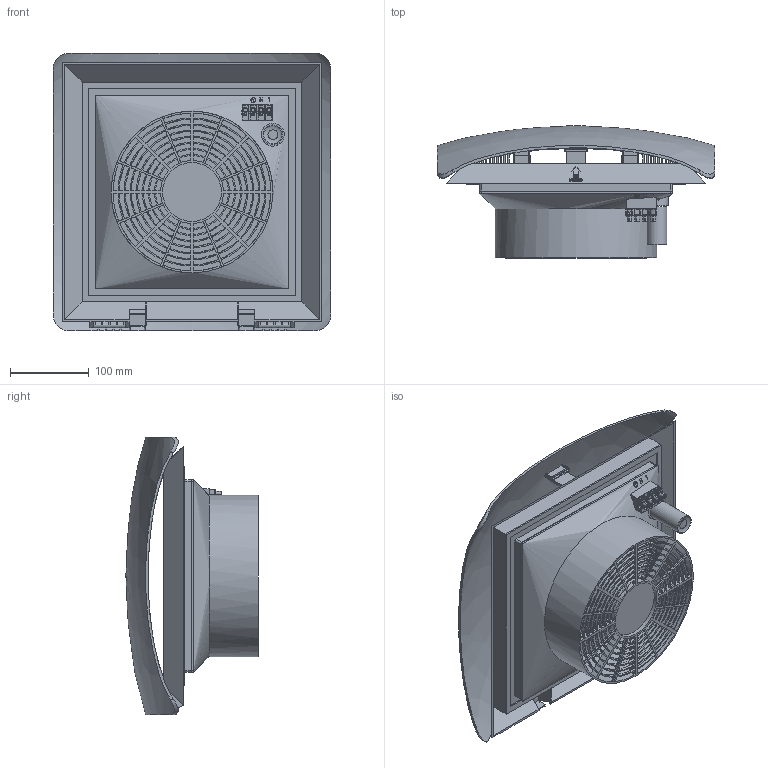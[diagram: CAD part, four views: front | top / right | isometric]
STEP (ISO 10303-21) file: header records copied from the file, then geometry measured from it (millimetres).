
FILE_DESCRIPTION (( 'STEP AP214' ), '1' );
FILE_NAME ('RFP_018_354x354x180_EPLAN_06_2013_Huelle.STEP', '2013-06-24T12:45:39', ( 'Nutzer' ), ( '' ), 'SwSTEP 2.0', 'SolidWorks 2013', '' );
FILE_SCHEMA (( 'AUTOMOTIVE_DESIGN' ));
Length unit declared in the file: millimetre
Products named in the file (1): RFP_018_354x354x180_EPLAN_06_2013_Huelle
Bounding box: 353.55 x 168.14 x 353.55 mm (x, y, z)
Surface area: 677461.5 mm2 (no closed solid volume)
Topology: 0 solids, 12 shells, 908 faces, 3925 edges, 2753 vertices
Faces by surface type: plane 579, cylinder 268, bspline 55, cone 5, torus 1
Full cylindrical faces by diameter (mm): 5.8 x1, 6 x2, 6.5 x1, 25 x1, 75 x1, 201 x1, 206 x1
Entity records: 52301 total; most frequent: CARTESIAN_POINT 13187, ORIENTED_EDGE 6464, DIRECTION 5737, EDGE_CURVE 3899, VECTOR 2817, LINE 2817, VERTEX_POINT 2743, AXIS2_PLACEMENT_3D 1460
